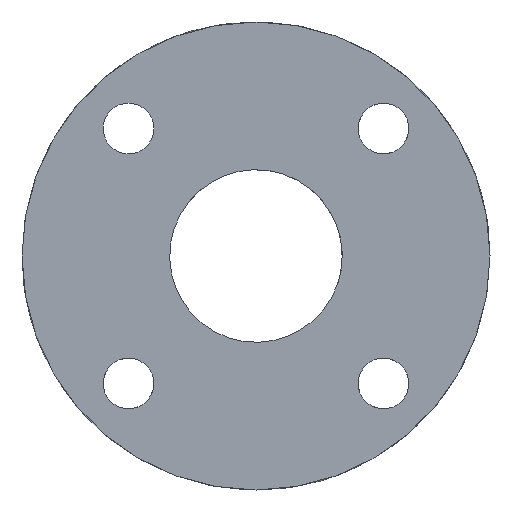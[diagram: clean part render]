
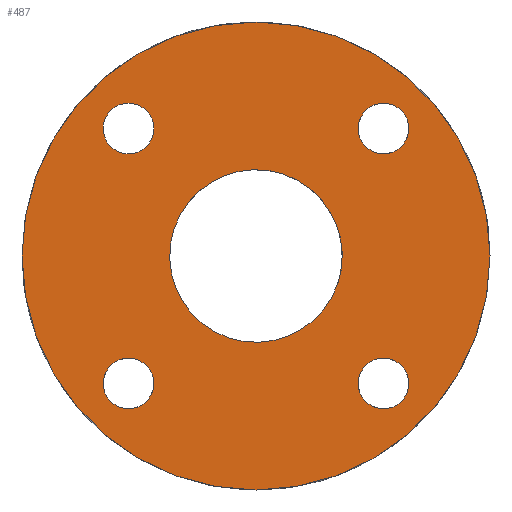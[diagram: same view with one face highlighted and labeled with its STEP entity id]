
A CAD part, left-side view. The second image highlights one B-rep face of the part: STEP entity #487.
In plain terms, the highlighted planar face has unit normal (-1, 0, 0).
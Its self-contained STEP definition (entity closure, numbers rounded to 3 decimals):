
#63=CARTESIAN_POINT('Vertex',(0.,13.721,15.035)) ;
#89=CARTESIAN_POINT('Vertex',(0.,19.513,18.199)) ;
#93=CARTESIAN_POINT('Control Point',(0.,13.721,15.035)) ;
#94=CARTESIAN_POINT('Control Point',(0.,13.97,14.58)) ;
#95=CARTESIAN_POINT('Control Point',(0.,14.307,14.174)) ;
#96=CARTESIAN_POINT('Control Point',(0.,14.722,13.84)) ;
#97=CARTESIAN_POINT('Control Point',(0.,15.659,13.353)) ;
#98=CARTESIAN_POINT('Control Point',(0.,16.711,13.256)) ;
#99=CARTESIAN_POINT('Control Point',(0.,17.241,13.313)) ;
#100=CARTESIAN_POINT('Control Point',(0.,18.248,13.632)) ;
#101=CARTESIAN_POINT('Control Point',(0.,19.06,14.307)) ;
#102=CARTESIAN_POINT('Control Point',(0.,19.394,14.722)) ;
#103=CARTESIAN_POINT('Control Point',(0.,19.881,15.659)) ;
#104=CARTESIAN_POINT('Control Point',(0.,19.978,16.711)) ;
#105=CARTESIAN_POINT('Control Point',(0.,19.921,17.241)) ;
#106=CARTESIAN_POINT('Control Point',(0.,19.762,17.744)) ;
#107=CARTESIAN_POINT('Control Point',(0.,19.513,18.199)) ;
#126=CARTESIAN_POINT('Axis2P3D Location',(0.,16.617,16.617)) ;
#388=CARTESIAN_POINT('Axis2P3D Location',(0.,0.,0.)) ;
#393=CARTESIAN_POINT('Axis2P3D Location',(0.,0.,0.)) ;
#397=CARTESIAN_POINT('Vertex',(0.,-30.5,0.)) ;
#399=CARTESIAN_POINT('Vertex',(0.,30.5,0.)) ;
#402=CARTESIAN_POINT('Axis2P3D Location',(0.,0.,0.)) ;
#415=CARTESIAN_POINT('Axis2P3D Location',(0.,0.,0.)) ;
#419=CARTESIAN_POINT('Vertex',(0.,-9.873,-5.394)) ;
#421=CARTESIAN_POINT('Vertex',(0.,9.873,5.394)) ;
#424=CARTESIAN_POINT('Axis2P3D Location',(0.,0.,0.)) ;
#433=CARTESIAN_POINT('Axis2P3D Location',(0.,-16.617,16.617)) ;
#437=CARTESIAN_POINT('Vertex',(0.,-18.199,19.513)) ;
#439=CARTESIAN_POINT('Vertex',(0.,-15.035,13.721)) ;
#442=CARTESIAN_POINT('Axis2P3D Location',(0.,-16.617,16.617)) ;
#451=CARTESIAN_POINT('Axis2P3D Location',(0.,-16.617,-16.617)) ;
#455=CARTESIAN_POINT('Vertex',(0.,-19.513,-18.199)) ;
#457=CARTESIAN_POINT('Vertex',(0.,-13.721,-15.035)) ;
#460=CARTESIAN_POINT('Axis2P3D Location',(0.,-16.617,-16.617)) ;
#469=CARTESIAN_POINT('Axis2P3D Location',(0.,16.617,-16.617)) ;
#473=CARTESIAN_POINT('Vertex',(0.,18.199,-19.513)) ;
#475=CARTESIAN_POINT('Vertex',(0.,15.035,-13.721)) ;
#478=CARTESIAN_POINT('Axis2P3D Location',(0.,16.617,-16.617)) ;
#127=DIRECTION('Axis2P3D Direction',(1.,0.,-0.)) ;
#389=DIRECTION('Axis2P3D Direction',(1.,0.,0.)) ;
#390=DIRECTION('Axis2P3D XDirection',(0.,1.,0.)) ;
#394=DIRECTION('Axis2P3D Direction',(1.,0.,0.)) ;
#403=DIRECTION('Axis2P3D Direction',(1.,0.,0.)) ;
#416=DIRECTION('Axis2P3D Direction',(1.,0.,0.)) ;
#425=DIRECTION('Axis2P3D Direction',(1.,0.,0.)) ;
#434=DIRECTION('Axis2P3D Direction',(1.,0.,0.)) ;
#443=DIRECTION('Axis2P3D Direction',(1.,0.,0.)) ;
#452=DIRECTION('Axis2P3D Direction',(1.,0.,0.)) ;
#461=DIRECTION('Axis2P3D Direction',(1.,0.,0.)) ;
#470=DIRECTION('Axis2P3D Direction',(1.,0.,0.)) ;
#479=DIRECTION('Axis2P3D Direction',(1.,0.,0.)) ;
#128=AXIS2_PLACEMENT_3D('Circle Axis2P3D',#126,#127,$) ;
#391=AXIS2_PLACEMENT_3D('Plane Axis2P3D',#388,#389,#390) ;
#395=AXIS2_PLACEMENT_3D('Circle Axis2P3D',#393,#394,$) ;
#404=AXIS2_PLACEMENT_3D('Circle Axis2P3D',#402,#403,$) ;
#417=AXIS2_PLACEMENT_3D('Circle Axis2P3D',#415,#416,$) ;
#426=AXIS2_PLACEMENT_3D('Circle Axis2P3D',#424,#425,$) ;
#435=AXIS2_PLACEMENT_3D('Circle Axis2P3D',#433,#434,$) ;
#444=AXIS2_PLACEMENT_3D('Circle Axis2P3D',#442,#443,$) ;
#453=AXIS2_PLACEMENT_3D('Circle Axis2P3D',#451,#452,$) ;
#462=AXIS2_PLACEMENT_3D('Circle Axis2P3D',#460,#461,$) ;
#471=AXIS2_PLACEMENT_3D('Circle Axis2P3D',#469,#470,$) ;
#480=AXIS2_PLACEMENT_3D('Circle Axis2P3D',#478,#479,$) ;
#408=ORIENTED_EDGE('',*,*,#401,.F.) ;
#409=ORIENTED_EDGE('',*,*,#406,.F.) ;
#412=ORIENTED_EDGE('',*,*,#108,.T.) ;
#413=ORIENTED_EDGE('',*,*,#130,.T.) ;
#430=ORIENTED_EDGE('',*,*,#423,.T.) ;
#431=ORIENTED_EDGE('',*,*,#428,.T.) ;
#448=ORIENTED_EDGE('',*,*,#441,.T.) ;
#449=ORIENTED_EDGE('',*,*,#446,.T.) ;
#466=ORIENTED_EDGE('',*,*,#459,.T.) ;
#467=ORIENTED_EDGE('',*,*,#464,.T.) ;
#484=ORIENTED_EDGE('',*,*,#477,.T.) ;
#485=ORIENTED_EDGE('',*,*,#482,.T.) ;
#414=FACE_BOUND('',#411,.T.) ;
#432=FACE_BOUND('',#429,.T.) ;
#450=FACE_BOUND('',#447,.T.) ;
#468=FACE_BOUND('',#465,.T.) ;
#486=FACE_BOUND('',#483,.T.) ;
#487=ADVANCED_FACE('TTM22',(#410,#414,#432,#450,#468,#486),#392,.F.) ;
#92=B_SPLINE_CURVE_WITH_KNOTS('',5,(#93,#94,#95,#96,#97,#98,#99,#100,#101,#102,#103,#104,#105,#106,#107),.UNSPECIFIED.,.F.,.U.,(6,3,3,3,6),(-5.184,-2.592,0.,2.592,5.184),.UNSPECIFIED.) ;
#129=CIRCLE('generated circle',#128,3.3) ;
#396=CIRCLE('generated circle',#395,30.5) ;
#405=CIRCLE('generated circle',#404,30.5) ;
#418=CIRCLE('generated circle',#417,11.25) ;
#427=CIRCLE('generated circle',#426,11.25) ;
#436=CIRCLE('generated circle',#435,3.3) ;
#445=CIRCLE('generated circle',#444,3.3) ;
#454=CIRCLE('generated circle',#453,3.3) ;
#463=CIRCLE('generated circle',#462,3.3) ;
#472=CIRCLE('generated circle',#471,3.3) ;
#481=CIRCLE('generated circle',#480,3.3) ;
#108=EDGE_CURVE('',#64,#90,#92,.T.) ;
#130=EDGE_CURVE('',#90,#64,#129,.T.) ;
#401=EDGE_CURVE('',#398,#400,#396,.T.) ;
#406=EDGE_CURVE('',#400,#398,#405,.T.) ;
#423=EDGE_CURVE('',#420,#422,#418,.T.) ;
#428=EDGE_CURVE('',#422,#420,#427,.T.) ;
#441=EDGE_CURVE('',#438,#440,#436,.T.) ;
#446=EDGE_CURVE('',#440,#438,#445,.T.) ;
#459=EDGE_CURVE('',#456,#458,#454,.T.) ;
#464=EDGE_CURVE('',#458,#456,#463,.T.) ;
#477=EDGE_CURVE('',#474,#476,#472,.T.) ;
#482=EDGE_CURVE('',#476,#474,#481,.T.) ;
#407=EDGE_LOOP('',(#408,#409)) ;
#411=EDGE_LOOP('',(#412,#413)) ;
#429=EDGE_LOOP('',(#430,#431)) ;
#447=EDGE_LOOP('',(#448,#449)) ;
#465=EDGE_LOOP('',(#466,#467)) ;
#483=EDGE_LOOP('',(#484,#485)) ;
#410=FACE_OUTER_BOUND('',#407,.T.) ;
#392=PLANE('',#391) ;
#64=VERTEX_POINT('',#63) ;
#90=VERTEX_POINT('',#89) ;
#398=VERTEX_POINT('',#397) ;
#400=VERTEX_POINT('',#399) ;
#420=VERTEX_POINT('',#419) ;
#422=VERTEX_POINT('',#421) ;
#438=VERTEX_POINT('',#437) ;
#440=VERTEX_POINT('',#439) ;
#456=VERTEX_POINT('',#455) ;
#458=VERTEX_POINT('',#457) ;
#474=VERTEX_POINT('',#473) ;
#476=VERTEX_POINT('',#475) ;
